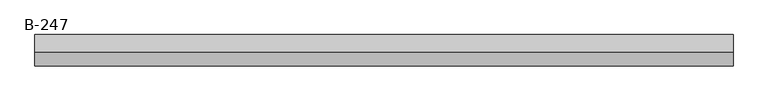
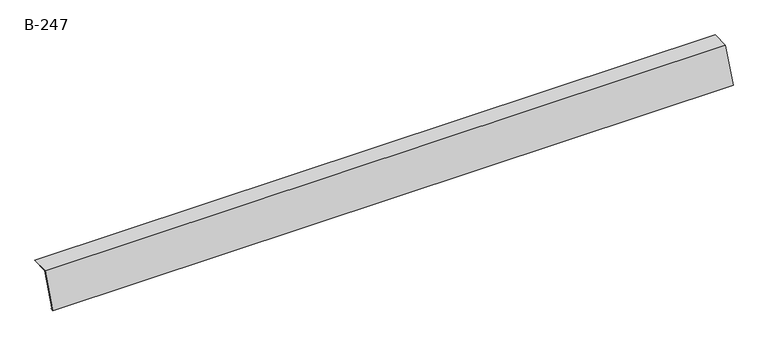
"""IFC4 building model written with IfcOpenShell, lengths in millimetres: proxy geometry, GROVIK_Flashing_Eaves_Custom : B-247."""

from ifc_helpers import new_model, si_unit, frame, origin, place, context, project, spatial, polyline, outline, extrude, source, transform, mapped, element, save


def b_247_9f91e7f2(model_context):
    return source(origin(), model_context, "Body", "SweptSolid", [
        extrude(outline(polyline([(-0.6918582, 0.9880759), (-57.9129574, -148.077984), (-48.2100002, -145.6587651), (-47.9680783, -146.6290608), (-59.5349563, -149.5130074), (-1.3837164, 1.9761518), (75.95352, 3.3260783), (75.9709724, 2.3262306), (-0.6918582, 0.9880759)])), frame((0.0, 0.0, 0.0), z_axis=(1.0, 0.0, 0.0), x_axis=(0.0, 1.0, 0.0)), (0.0, 0.0, 1.0), 3000.0),
    ])


if __name__ == "__main__":
    model = new_model("IFC4")
    model_context = context("Model", 3, world=origin())
    ifc_project = project(units=[si_unit("LENGTHUNIT", "METRE", prefix="MILLI")], contexts=[model_context])
    site = spatial("IfcSite", under=ifc_project)
    building = spatial("IfcBuilding", under=site)
    placement = place(None, origin())
    b_247_shape = b_247_9f91e7f2(model_context)
    element("IfcBuildingElementProxy", 1, Name="GROVIK_Flashing_Eaves_Custom : B-247", ObjectType="GROVIK_Flashing_Eaves_Custom : B-247", at=placement, inside=building, context=model_context, shape_type="MappedRepresentation", body=[
        mapped(b_247_shape, transform((0.0, 0.0, 0.0), x_axis=(1.0, 0.0, 0.0), y_axis=(0.0, 1.0, 0.0), z_axis=(0.0, 0.0, 1.0))),
    ])
    save(model, "model.ifc")
